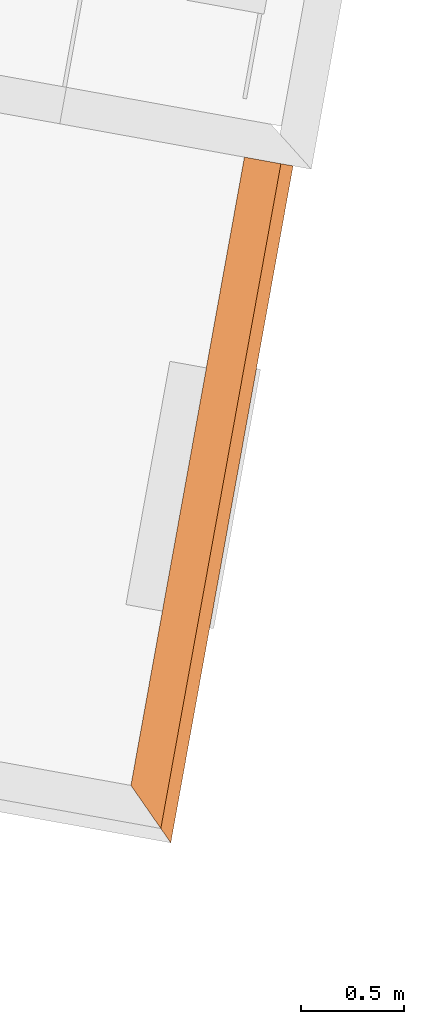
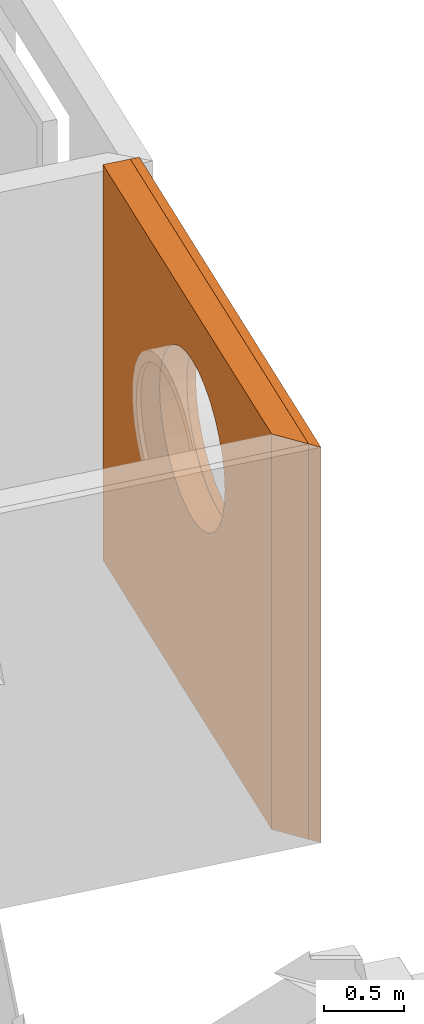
# One storey, part 62 of 79: 2 proxies, 1 element without a shape of its own.
"""IFC2X3 building model written with IfcOpenShell, lengths in metres."""

from ifc_helpers import new_model, entity, si_unit, converted_unit, derived_unit, money_unit, direction, frame, origin_with_axes, place, context, subcontext, project, spatial, polyline, outline, extrude, boolean, faceted_brep, material, type_object, element, aggregate, save


model = new_model("IFC2X3")

# Units and contexts
model_context = context("Model", 3, precision=1e-05, world=origin_with_axes(), true_north=direction((0.0, 1.0)))
body_context = subcontext(model_context, "Body", "Model", "MODEL_VIEW")
ifc_project = project(units=[si_unit("LENGTHUNIT", "METRE"), si_unit("AREAUNIT", "SQUARE_METRE"), si_unit("VOLUMEUNIT", "CUBIC_METRE"), converted_unit("PLANEANGLEUNIT", "DEGREE", entity("IfcPlaneAngleMeasure", 0.0174532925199), si_unit("PLANEANGLEUNIT", "RADIAN"), dimensions=[0, 0, 0, 0, 0, 0, 0]), money_unit("CHF"), converted_unit("TIMEUNIT", "Year", entity("IfcTimeMeasure", 31556926.0), si_unit("TIMEUNIT", "SECOND"), dimensions=[0, 0, 1, 0, 0, 0, 0]), si_unit("MASSUNIT", "GRAM", prefix="KILO"), si_unit("THERMODYNAMICTEMPERATUREUNIT", "DEGREE_CELSIUS"), si_unit("LUMINOUSINTENSITYUNIT", "LUMEN"), si_unit("ENERGYUNIT", "JOULE", prefix="MEGA"), derived_unit("THERMALCONDUCTANCEUNIT", [(si_unit("POWERUNIT", "WATT"), 1), (si_unit("LENGTHUNIT", "METRE"), -1), (si_unit("THERMODYNAMICTEMPERATUREUNIT", "KELVIN"), -1)]), derived_unit("SPECIFICHEATCAPACITYUNIT", [(si_unit("ENERGYUNIT", "JOULE"), 1), (si_unit("MASSUNIT", "GRAM", prefix="KILO"), -1), (si_unit("THERMODYNAMICTEMPERATUREUNIT", "KELVIN"), -1)]), derived_unit("MASSDENSITYUNIT", [(si_unit("MASSUNIT", "GRAM", prefix="KILO"), 1), (si_unit("VOLUMEUNIT", "CUBIC_METRE"), -1)])], contexts=[model_context])

# Site, building, storey
site_placement = place(None, frame((0.0, 0.0, 0.0), z_axis=(0.0, 0.0, 1.0), x_axis=(-0.177771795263, -0.984071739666, 0.0)))
site = spatial("IfcSite", under=ifc_project, at=site_placement, Name="Site", CompositionType="ELEMENT")
building_placement = place(site_placement, origin_with_axes())
building = spatial("IfcBuilding", under=site, at=building_placement, Name="Bâtiment", CompositionType="ELEMENT")
storey_placement = place(building_placement, origin_with_axes())
storey = spatial("IfcBuildingStorey", under=building, at=storey_placement, Name="RDC", CompositionType="ELEMENT", Elevation=0.0)

# Proxies
building_element_proxy_type_1 = type_object("IfcBuildingElementProxyType", Name="_M ext bard. 6+18+18 gris 420", PredefinedType="NOTDEFINED")
proxy_1_placement = place(storey_placement, origin_with_axes())
proxy_1 = element("IfcBuildingElementProxy", 1, at=proxy_1_placement, inside=storey, type_object=building_element_proxy_type_1, Name="M ext entretien-Est")
ifc_material_1 = material(Name="_BA banché RAL9007")
building_element_proxy_type_2 = type_object("IfcBuildingElementProxyType", Name="IFC Extruded", PredefinedType="NOTDEFINED")
proxy_2_placement = place(proxy_1_placement, frame((141.294841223, -148.267150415, -0.15), z_axis=(0.0, 0.0, 1.0), x_axis=(-1.0, -8.49117808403e-08, 0.0)))
proxy_2 = element("IfcBuildingElementProxy", 2, at=proxy_2_placement, type_object=building_element_proxy_type_2, material=ifc_material_1, Name="_BA banché RAL9007", context=body_context, shape_type="CSG", body=[
    boolean("DIFFERENCE", extrude(outline(polyline([(0.0, 0.0), (3.28, 0.0), (3.28000001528, 0.18), (0.180000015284, 0.18), (0.0, 0.0)])), origin_with_axes(), (0.0, 0.0, 1.0), 3.0), faceted_brep([(1.08567233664, 0.18, 1.77038993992), (1.05152887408, 0.18, 1.88294580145), (1.04000004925, 0.18, 2.0), (1.05152887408, 0.18, 2.11705419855), (1.08567233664, 0.18, 2.22961006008), (1.14111828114, 0.18, 2.33334214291), (1.21573597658, 0.18, 2.42426407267), (1.30665790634, 0.18, 2.49888176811), (1.41038998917, 0.18, 2.55432771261), (1.52294585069, 0.18, 2.58847117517), (1.64000004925, 0.18, 2.6), (1.7570542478, 0.18, 2.58847117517), (1.86961010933, 0.18, 2.55432771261), (1.97334219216, 0.18, 2.49888176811), (2.06426412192, 0.18, 2.42426407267), (2.13888181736, 0.18, 2.33334214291), (2.19432776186, 0.18, 2.22961006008), (2.22847122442, 0.18, 2.11705419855), (2.24000004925, 0.18, 2.0), (2.22847122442, 0.18, 1.88294580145), (2.19432776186, 0.18, 1.77038993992), (2.13888181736, 0.18, 1.66665785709), (2.06426412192, 0.18, 1.57573592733), (1.97334219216, 0.18, 1.50111823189), (1.86961010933, 0.18, 1.44567228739), (1.7570542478, 0.18, 1.41152882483), (1.64000004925, 0.18, 1.4), (1.52294585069, 0.18, 1.41152882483), (1.41038998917, 0.18, 1.44567228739), (1.30665790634, 0.18, 1.50111823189), (1.21573597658, 0.18, 1.57573592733), (1.14111828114, 0.18, 1.66665785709), (1.08567232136, 0.0, 1.77038993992), (1.0515288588, 0.0, 1.88294580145), (1.04000003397, 0.0, 2.0), (1.0515288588, 0.0, 2.11705419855), (1.08567232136, 0.0, 2.22961006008), (1.14111826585, 0.0, 2.33334214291), (1.2157359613, 0.0, 2.42426407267), (1.30665789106, 0.0, 2.49888176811), (1.41038997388, 0.0, 2.55432771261), (1.52294583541, 0.0, 2.58847117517), (1.64000003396, 0.0, 2.6), (1.75705423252, 0.0, 2.58847117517), (1.86961009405, 0.0, 2.55432771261), (1.97334217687, 0.0, 2.49888176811), (2.06426410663, 0.0, 2.42426407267), (2.13888180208, 0.0, 2.33334214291), (2.19432774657, 0.0, 2.22961006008), (2.22847120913, 0.0, 2.11705419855), (2.24000003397, 0.0, 2.0), (2.22847120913, 0.0, 1.88294580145), (2.19432774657, 0.0, 1.77038993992), (2.13888180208, 0.0, 1.66665785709), (2.06426410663, 0.0, 1.57573592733), (1.97334217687, 0.0, 1.50111823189), (1.86961009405, 0.0, 1.44567228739), (1.75705423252, 0.0, 1.41152882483), (1.64000003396, 0.0, 1.4), (1.52294583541, 0.0, 1.41152882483), (1.41038997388, 0.0, 1.44567228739), (1.30665789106, 0.0, 1.50111823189), (1.2157359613, 0.0, 1.57573592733), (1.14111826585, 0.0, 1.66665785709)], [[[0, 1, 2, 3, 4, 5, 6, 7, 8, 9, 10, 11, 12, 13, 14, 15, 16, 17, 18, 19, 20, 21, 22, 23, 24, 25, 26, 27, 28, 29, 30, 31]], [[32, 33, 1, 0]], [[33, 34, 2, 1]], [[34, 35, 3, 2]], [[35, 36, 4, 3]], [[36, 37, 5, 4]], [[37, 38, 6, 5]], [[38, 39, 7, 6]], [[39, 40, 8, 7]], [[40, 41, 9, 8]], [[41, 42, 10, 9]], [[42, 43, 11, 10]], [[43, 44, 12, 11]], [[44, 45, 13, 12]], [[45, 46, 14, 13]], [[46, 47, 15, 14]], [[47, 48, 16, 15]], [[48, 49, 17, 16]], [[49, 50, 18, 17]], [[50, 51, 19, 18]], [[51, 52, 20, 19]], [[52, 53, 21, 20]], [[53, 54, 22, 21]], [[54, 55, 23, 22]], [[55, 56, 24, 23]], [[56, 57, 25, 24]], [[57, 58, 26, 25]], [[58, 59, 27, 26]], [[59, 60, 28, 27]], [[60, 61, 29, 28]], [[61, 62, 30, 29]], [[62, 63, 31, 30]], [[63, 32, 0, 31]], [[36, 35, 34, 33, 32, 63, 62, 61, 60, 59, 58, 57, 56, 55, 54, 53, 52, 51, 50, 49, 48, 47, 46, 45, 44, 43, 42, 41, 40, 39, 38, 37]]])),
])
ifc_material_2 = material(Name="Bois - Bardage")
proxy_3_placement = place(proxy_1_placement, frame((141.294841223, -148.267150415, -0.15), z_axis=(0.0, 0.0, 1.0), x_axis=(-1.0, -8.49117808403e-08, 0.0)))
proxy_3 = element("IfcBuildingElementProxy", 3, at=proxy_3_placement, type_object=building_element_proxy_type_2, material=ifc_material_2, Name="Bois - Bardage", context=body_context, shape_type="CSG", body=[
    boolean("DIFFERENCE", extrude(outline(polyline([(-0.0600000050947, -0.06), (3.27999999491, -0.06), (3.28, 0.0), (0.0, 0.0), (-0.0600000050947, -0.06)])), origin_with_axes(), (0.0, 0.0, 1.0), 3.0), faceted_brep([(1.08567232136, 0.0, 1.77038993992), (1.0515288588, 0.0, 1.88294580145), (1.04000003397, 0.0, 2.0), (1.0515288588, 0.0, 2.11705419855), (1.08567232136, 0.0, 2.22961006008), (1.14111826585, 0.0, 2.33334214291), (1.2157359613, 0.0, 2.42426407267), (1.30665789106, 0.0, 2.49888176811), (1.41038997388, 0.0, 2.55432771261), (1.52294583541, 0.0, 2.58847117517), (1.64000003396, 0.0, 2.6), (1.75705423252, 0.0, 2.58847117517), (1.86961009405, 0.0, 2.55432771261), (1.97334217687, 0.0, 2.49888176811), (2.06426410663, 0.0, 2.42426407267), (2.13888180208, 0.0, 2.33334214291), (2.19432774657, 0.0, 2.22961006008), (2.22847120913, 0.0, 2.11705419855), (2.24000003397, 0.0, 2.0), (2.22847120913, 0.0, 1.88294580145), (2.19432774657, 0.0, 1.77038993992), (2.13888180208, 0.0, 1.66665785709), (2.06426410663, 0.0, 1.57573592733), (1.97334217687, 0.0, 1.50111823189), (1.86961009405, 0.0, 1.44567228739), (1.75705423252, 0.0, 1.41152882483), (1.64000003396, 0.0, 1.4), (1.52294583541, 0.0, 1.41152882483), (1.41038997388, 0.0, 1.44567228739), (1.30665789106, 0.0, 1.50111823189), (1.2157359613, 0.0, 1.57573592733), (1.14111826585, 0.0, 1.66665785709), (1.08567231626, -0.06, 1.77038993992), (1.0515288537, -0.06, 1.88294580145), (1.04000002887, -0.06, 2.0), (1.0515288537, -0.06, 2.11705419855), (1.08567231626, -0.06, 2.22961006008), (1.14111826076, -0.06, 2.33334214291), (1.2157359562, -0.06, 2.42426407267), (1.30665788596, -0.06, 2.49888176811), (1.41038996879, -0.06, 2.55432771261), (1.52294583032, -0.06, 2.58847117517), (1.64000002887, -0.06, 2.6), (1.75705422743, -0.06, 2.58847117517), (1.86961008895, -0.06, 2.55432771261), (1.97334217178, -0.0600000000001, 2.49888176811), (2.06426410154, -0.06, 2.42426407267), (2.13888179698, -0.0600000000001, 2.33334214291), (2.19432774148, -0.06, 2.22961006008), (2.22847120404, -0.06, 2.11705419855), (2.24000002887, -0.06, 2.0), (2.22847120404, -0.06, 1.88294580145), (2.19432774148, -0.06, 1.77038993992), (2.13888179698, -0.0600000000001, 1.66665785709), (2.06426410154, -0.06, 1.57573592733), (1.97334217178, -0.0600000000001, 1.50111823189), (1.86961008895, -0.06, 1.44567228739), (1.75705422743, -0.06, 1.41152882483), (1.64000002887, -0.06, 1.4), (1.52294583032, -0.06, 1.41152882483), (1.41038996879, -0.06, 1.44567228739), (1.30665788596, -0.06, 1.50111823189), (1.2157359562, -0.06, 1.57573592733), (1.14111826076, -0.06, 1.66665785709)], [[[0, 1, 2, 3, 4, 5, 6, 7, 8, 9, 10, 11, 12, 13, 14, 15, 16, 17, 18, 19, 20, 21, 22, 23, 24, 25, 26, 27, 28, 29, 30, 31]], [[32, 33, 1, 0]], [[33, 34, 2, 1]], [[34, 35, 3, 2]], [[35, 36, 4, 3]], [[36, 37, 5, 4]], [[37, 38, 6, 5]], [[38, 39, 7, 6]], [[39, 40, 8, 7]], [[40, 41, 9, 8]], [[41, 42, 10, 9]], [[42, 43, 11, 10]], [[43, 44, 12, 11]], [[44, 45, 13, 12]], [[45, 46, 14, 13]], [[46, 47, 15, 14]], [[47, 48, 16, 15]], [[48, 49, 17, 16]], [[49, 50, 18, 17]], [[50, 51, 19, 18]], [[51, 52, 20, 19]], [[52, 53, 21, 20]], [[53, 54, 22, 21]], [[54, 55, 23, 22]], [[55, 56, 24, 23]], [[56, 57, 25, 24]], [[57, 58, 26, 25]], [[58, 59, 27, 26]], [[59, 60, 28, 27]], [[60, 61, 29, 28]], [[61, 62, 30, 29]], [[62, 63, 31, 30]], [[63, 32, 0, 31]], [[36, 35, 34, 33, 32, 63, 62, 61, 60, 59, 58, 57, 56, 55, 54, 53, 52, 51, 50, 49, 48, 47, 46, 45, 44, 43, 42, 41, 40, 39, 38, 37]]])),
])
aggregate(proxy_1, [proxy_2, proxy_3])

save(model, "model.ifc")
